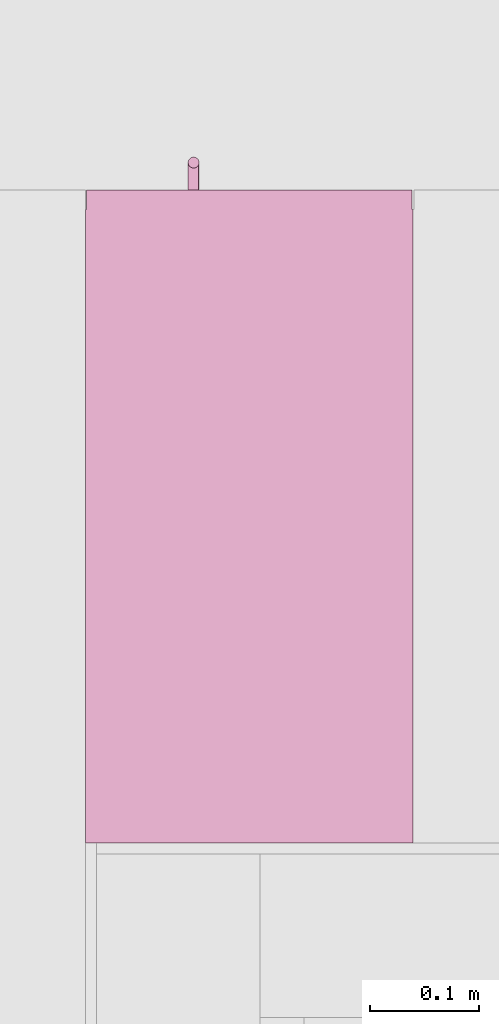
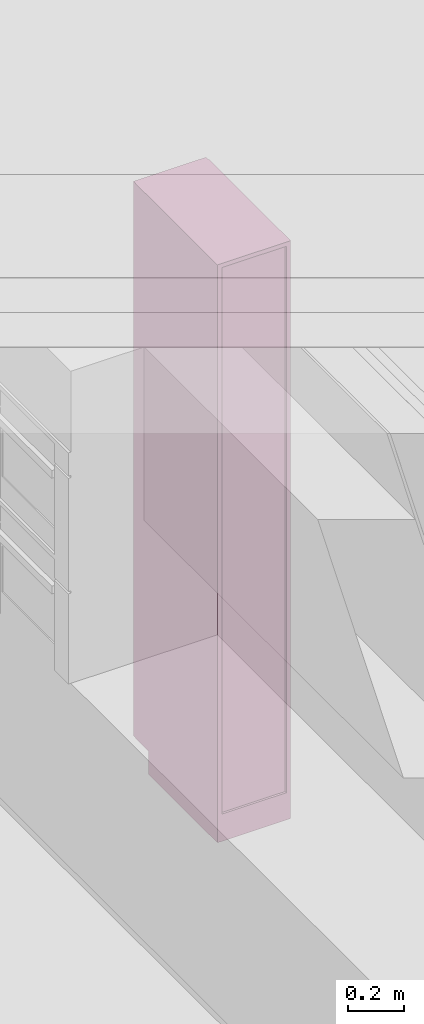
# One storey, part 32 of 36: 1 furniture element.
"""IFC4 building model written with IfcOpenShell, lengths in millimetres."""

from ifc_helpers import new_model, entity, si_unit, converted_unit, derived_unit, direction, frame, origin_with_axes, place, context, subcontext, project, spatial, polygons, source, transform, mapped, type_object, element, save


model = new_model("IFC4")

# Units and contexts
model_context = context("Model", 3, precision=0.01, world=origin_with_axes(), true_north=direction((0.0, 1.0)))
body_context = subcontext(model_context, "Body", "Model", "MODEL_VIEW")
ifc_project = project(units=[si_unit("LENGTHUNIT", "METRE", prefix="MILLI"), si_unit("AREAUNIT", "SQUARE_METRE"), si_unit("VOLUMEUNIT", "CUBIC_METRE"), converted_unit("PLANEANGLEUNIT", "DEGREE", entity("IfcPlaneAngleMeasure", 0.0174532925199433), si_unit("PLANEANGLEUNIT", "RADIAN"), dimensions=[0, 0, 0, 0, 0, 0, 0]), converted_unit("TIMEUNIT", "Year", entity("IfcTimeMeasure", 31557600.0), si_unit("TIMEUNIT", "SECOND"), dimensions=[0, 0, 1, 0, 0, 0, 0]), si_unit("MASSUNIT", "GRAM", prefix="KILO"), si_unit("THERMODYNAMICTEMPERATUREUNIT", "DEGREE_CELSIUS"), si_unit("LUMINOUSINTENSITYUNIT", "LUMEN"), si_unit("ENERGYUNIT", "JOULE", prefix="MEGA"), derived_unit("THERMALCONDUCTANCEUNIT", [(si_unit("POWERUNIT", "WATT"), 1), (si_unit("LENGTHUNIT", "METRE"), -1), (si_unit("THERMODYNAMICTEMPERATUREUNIT", "KELVIN"), -1)]), derived_unit("SPECIFICHEATCAPACITYUNIT", [(si_unit("ENERGYUNIT", "JOULE"), 1), (si_unit("MASSUNIT", "GRAM", prefix="KILO"), -1), (si_unit("THERMODYNAMICTEMPERATUREUNIT", "KELVIN"), -1)]), derived_unit("MASSDENSITYUNIT", [(si_unit("MASSUNIT", "GRAM", prefix="KILO"), 1), (si_unit("VOLUMEUNIT", "CUBIC_METRE"), -1)])], contexts=[model_context])

# Site, building, storey
site_placement = place(None, origin_with_axes())
site = spatial("IfcSite", under=ifc_project, at=site_placement, Name="Gelände", CompositionType="ELEMENT")
building_placement = place(site_placement, origin_with_axes())
building = spatial("IfcBuilding", under=site, at=building_placement, Name="Gebäude", CompositionType="ELEMENT")
storey_placement = place(building_placement, frame((0.0, 0.0, 8700.0), z_axis=(0.0, 0.0, 1.0), x_axis=(1.0, 0.0, 0.0)))
storey = spatial("IfcBuildingStorey", under=building, at=storey_placement, Name="Attika", CompositionType="ELEMENT", Elevation=8700.0)

# Furniture
furniture_type = type_object("IfcFurnitureType", Name="Stehender Schrank Block 27", AssemblyPlace="NOTDEFINED", PredefinedType="NOTDEFINED")
shared_shape = source(origin_with_axes(), body_context, "Body", "Tessellation", [
    polygons([(201.8682408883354, -597.9999999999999, 1352.799038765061), (202.710100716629, -597.9999999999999, 1352.573463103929), (203.5000000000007, -597.9999999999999, 1352.205127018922), (204.2139380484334, -597.9999999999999, 1351.705222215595), (204.8302222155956, -597.9999999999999, 1351.088938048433), (205.3301270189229, -597.9999999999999, 1350.375), (205.6984631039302, -597.9999999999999, 1349.585100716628), (205.9240387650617, -597.9999999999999, 1348.743240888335), (206.0000000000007, -597.9999999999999, 1347.875), (205.9240387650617, -597.9999999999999, 1347.006759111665), (205.6984631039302, -597.9999999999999, 1346.164899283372), (205.3301270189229, -597.9999999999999, 1345.375), (204.8302222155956, -597.9999999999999, 1344.661061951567), (204.2139380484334, -597.9999999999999, 1344.044777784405), (203.5000000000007, -597.9999999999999, 1343.544872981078), (202.710100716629, -597.9999999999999, 1343.176536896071), (201.8682408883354, -597.9999999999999, 1342.950961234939), (201.0000000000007, -597.9999999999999, 1342.875), (200.1317591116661, -597.9999999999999, 1342.950961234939), (199.2898992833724, -597.9999999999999, 1343.176536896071), (198.5000000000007, -597.9999999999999, 1343.544872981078), (197.786061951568, -597.9999999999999, 1344.044777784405), (197.1697777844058, -597.9999999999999, 1344.661061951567), (196.6698729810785, -597.9999999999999, 1345.375), (196.3015368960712, -597.9999999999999, 1346.164899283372), (196.0759612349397, -597.9999999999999, 1347.006759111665), (196.0000000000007, -597.9999999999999, 1347.875), (196.0759612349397, -597.9999999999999, 1348.743240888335), (196.3015368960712, -597.9999999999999, 1349.585100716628), (196.6698729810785, -597.9999999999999, 1350.375), (197.1697777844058, -597.9999999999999, 1351.088938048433), (197.786061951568, -597.9999999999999, 1351.705222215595), (198.5000000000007, -597.9999999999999, 1352.205127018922), (199.2898992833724, -597.9999999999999, 1352.573463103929), (200.1317591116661, -597.9999999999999, 1352.799038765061), (201.0000000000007, -597.9999999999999, 1352.875), (201.8682408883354, -622.9999999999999, 1352.799038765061), (202.710100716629, -622.9999999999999, 1352.573463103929), (203.5000000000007, -622.9999999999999, 1352.205127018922), (204.2139380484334, -622.9999999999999, 1351.705222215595), (204.8302222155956, -622.9999999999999, 1351.088938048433), (205.3301270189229, -622.9999999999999, 1350.375), (205.6984631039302, -622.9999999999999, 1349.585100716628), (205.9240387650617, -622.9999999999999, 1348.743240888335), (206.0000000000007, -622.9999999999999, 1347.875), (205.9240387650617, -622.9999999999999, 1347.006759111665), (205.6984631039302, -622.9999999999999, 1346.164899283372), (205.3301270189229, -622.9999999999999, 1345.375), (204.8302222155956, -622.9999999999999, 1344.661061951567), (204.2139380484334, -622.9999999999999, 1344.044777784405), (203.5000000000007, -622.9999999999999, 1343.544872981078), (202.710100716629, -622.9999999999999, 1343.176536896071), (201.8682408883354, -622.9999999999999, 1342.950961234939), (201.0000000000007, -622.9999999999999, 1342.875), (200.1317591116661, -622.9999999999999, 1342.950961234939), (199.2898992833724, -622.9999999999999, 1343.176536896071), (198.5000000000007, -622.9999999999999, 1343.544872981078), (197.786061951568, -622.9999999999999, 1344.044777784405), (197.1697777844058, -622.9999999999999, 1344.661061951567), (196.6698729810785, -622.9999999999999, 1345.375), (196.3015368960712, -622.9999999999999, 1346.164899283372), (196.0759612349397, -622.9999999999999, 1347.006759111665), (196.0000000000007, -622.9999999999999, 1347.875), (196.0759612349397, -622.9999999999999, 1348.743240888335), (196.3015368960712, -622.9999999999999, 1349.585100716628), (196.6698729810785, -622.9999999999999, 1350.375), (197.1697777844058, -622.9999999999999, 1351.088938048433), (197.786061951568, -622.9999999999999, 1351.705222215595), (198.5000000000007, -622.9999999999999, 1352.205127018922), (199.2898992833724, -622.9999999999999, 1352.573463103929), (200.1317591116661, -622.9999999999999, 1352.799038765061), (201.0000000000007, -622.9999999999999, 1352.875)], [[[1, 2, 3, 4, 5, 6, 7, 8, 9, 10, 11, 12, 13, 14, 15, 16, 17, 18, 19, 20, 21, 22, 23, 24, 25, 26, 27, 28, 29, 30, 31, 32, 33, 34, 35, 36]], [[2, 1, 37, 38]], [[3, 2, 38, 39]], [[4, 3, 39, 40]], [[5, 4, 40, 41]], [[6, 5, 41, 42]], [[7, 6, 42, 43]], [[8, 7, 43, 44]], [[9, 8, 44, 45]], [[10, 9, 45, 46]], [[11, 10, 46, 47]], [[12, 11, 47, 48]], [[13, 12, 48, 49]], [[14, 13, 49, 50]], [[15, 14, 50, 51]], [[16, 15, 51, 52]], [[17, 16, 52, 53]], [[18, 17, 53, 54]], [[19, 18, 54, 55]], [[20, 19, 55, 56]], [[21, 20, 56, 57]], [[22, 21, 57, 58]], [[23, 22, 58, 59]], [[24, 23, 59, 60]], [[25, 24, 60, 61]], [[26, 25, 61, 62]], [[27, 26, 62, 63]], [[28, 27, 63, 64]], [[29, 28, 64, 65]], [[30, 29, 65, 66]], [[31, 30, 66, 67]], [[32, 31, 67, 68]], [[33, 32, 68, 69]], [[34, 33, 69, 70]], [[35, 34, 70, 71]], [[36, 35, 71, 72]], [[1, 36, 72, 37]], [[37, 72, 71, 70, 69, 68, 67, 66, 65, 64, 63, 62, 61, 60, 59, 58, 57, 56, 55, 54, 53, 52, 51, 50, 49, 48, 47, 46, 45, 44, 43, 42, 41, 40, 39, 38]]], closed=True),
    polygons([(201.8682408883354, -597.9999999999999, 1249.200961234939), (201.0000000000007, -597.9999999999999, 1249.125), (200.1317591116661, -597.9999999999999, 1249.200961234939), (199.2898992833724, -597.9999999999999, 1249.426536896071), (198.5000000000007, -597.9999999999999, 1249.794872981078), (197.786061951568, -597.9999999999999, 1250.294777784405), (197.1697777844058, -597.9999999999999, 1250.911061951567), (196.6698729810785, -597.9999999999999, 1251.625), (196.3015368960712, -597.9999999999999, 1252.414899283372), (196.0759612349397, -597.9999999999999, 1253.256759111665), (196.0000000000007, -597.9999999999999, 1254.125), (196.0759612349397, -597.9999999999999, 1254.993240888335), (196.3015368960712, -597.9999999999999, 1255.835100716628), (196.6698729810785, -597.9999999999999, 1256.625), (197.1697777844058, -597.9999999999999, 1257.338938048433), (197.786061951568, -597.9999999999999, 1257.955222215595), (198.5000000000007, -597.9999999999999, 1258.455127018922), (199.2898992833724, -597.9999999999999, 1258.823463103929), (200.1317591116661, -597.9999999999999, 1259.049038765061), (201.0000000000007, -597.9999999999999, 1259.125), (201.8682408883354, -597.9999999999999, 1259.049038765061), (202.710100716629, -597.9999999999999, 1258.823463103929), (203.5000000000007, -597.9999999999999, 1258.455127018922), (204.2139380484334, -597.9999999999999, 1257.955222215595), (204.8302222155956, -597.9999999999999, 1257.338938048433), (205.3301270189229, -597.9999999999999, 1256.625), (205.6984631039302, -597.9999999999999, 1255.835100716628), (205.9240387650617, -597.9999999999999, 1254.993240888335), (206.0000000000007, -597.9999999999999, 1254.125), (205.9240387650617, -597.9999999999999, 1253.256759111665), (205.6984631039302, -597.9999999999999, 1252.414899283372), (205.3301270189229, -597.9999999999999, 1251.625), (204.8302222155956, -597.9999999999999, 1250.911061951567), (204.2139380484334, -597.9999999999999, 1250.294777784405), (203.5000000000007, -597.9999999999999, 1249.794872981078), (202.710100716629, -597.9999999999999, 1249.426536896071), (201.8682408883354, -622.9999999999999, 1249.200961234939), (201.0000000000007, -622.9999999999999, 1249.125), (200.1317591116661, -622.9999999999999, 1249.200961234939), (199.2898992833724, -622.9999999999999, 1249.426536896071), (198.5000000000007, -622.9999999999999, 1249.794872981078), (197.786061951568, -622.9999999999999, 1250.294777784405), (197.1697777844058, -622.9999999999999, 1250.911061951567), (196.6698729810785, -622.9999999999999, 1251.625), (196.3015368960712, -622.9999999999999, 1252.414899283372), (196.0759612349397, -622.9999999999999, 1253.256759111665), (196.0000000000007, -622.9999999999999, 1254.125), (196.0759612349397, -622.9999999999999, 1254.993240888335), (196.3015368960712, -622.9999999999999, 1255.835100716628), (196.6698729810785, -622.9999999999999, 1256.625), (197.1697777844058, -622.9999999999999, 1257.338938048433), (197.786061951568, -622.9999999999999, 1257.955222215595), (198.5000000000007, -622.9999999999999, 1258.455127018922), (199.2898992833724, -622.9999999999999, 1258.823463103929), (200.1317591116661, -622.9999999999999, 1259.049038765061), (201.0000000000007, -622.9999999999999, 1259.125), (201.8682408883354, -622.9999999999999, 1259.049038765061), (202.710100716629, -622.9999999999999, 1258.823463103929), (203.5000000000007, -622.9999999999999, 1258.455127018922), (204.2139380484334, -622.9999999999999, 1257.955222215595), (204.8302222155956, -622.9999999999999, 1257.338938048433), (205.3301270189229, -622.9999999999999, 1256.625), (205.6984631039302, -622.9999999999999, 1255.835100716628), (205.9240387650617, -622.9999999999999, 1254.993240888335), (206.0000000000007, -622.9999999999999, 1254.125), (205.9240387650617, -622.9999999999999, 1253.256759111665), (205.6984631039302, -622.9999999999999, 1252.414899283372), (205.3301270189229, -622.9999999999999, 1251.625), (204.8302222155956, -622.9999999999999, 1250.911061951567), (204.2139380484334, -622.9999999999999, 1250.294777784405), (203.5000000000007, -622.9999999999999, 1249.794872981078), (202.710100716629, -622.9999999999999, 1249.426536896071)], [[[1, 2, 3, 4, 5, 6, 7, 8, 9, 10, 11, 12, 13, 14, 15, 16, 17, 18, 19, 20, 21, 22, 23, 24, 25, 26, 27, 28, 29, 30, 31, 32, 33, 34, 35, 36]], [[1, 37, 38, 2]], [[2, 38, 39, 3]], [[3, 39, 40, 4]], [[4, 40, 41, 5]], [[5, 41, 42, 6]], [[6, 42, 43, 7]], [[7, 43, 44, 8]], [[8, 44, 45, 9]], [[9, 45, 46, 10]], [[10, 46, 47, 11]], [[11, 47, 48, 12]], [[12, 48, 49, 13]], [[13, 49, 50, 14]], [[14, 50, 51, 15]], [[15, 51, 52, 16]], [[16, 52, 53, 17]], [[17, 53, 54, 18]], [[18, 54, 55, 19]], [[19, 55, 56, 20]], [[20, 56, 57, 21]], [[21, 57, 58, 22]], [[22, 58, 59, 23]], [[23, 59, 60, 24]], [[24, 60, 61, 25]], [[25, 61, 62, 26]], [[26, 62, 63, 27]], [[27, 63, 64, 28]], [[28, 64, 65, 29]], [[29, 65, 66, 30]], [[30, 66, 67, 31]], [[31, 67, 68, 32]], [[32, 68, 69, 33]], [[33, 69, 70, 34]], [[34, 70, 71, 35]], [[35, 71, 72, 36]], [[36, 72, 37, 1]], [[37, 72, 71, 70, 69, 68, 67, 66, 65, 64, 63, 62, 61, 60, 59, 58, 57, 56, 55, 54, 53, 52, 51, 50, 49, 48, 47, 46, 45, 44, 43, 42, 41, 40, 39, 38]]], closed=True),
    polygons([(201.8682408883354, -618.0759612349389, 1226.0), (202.710100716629, -618.3015368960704, 1226.0), (203.5000000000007, -618.6698729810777, 1226.0), (204.2139380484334, -619.1697777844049, 1226.0), (204.8302222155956, -619.7860619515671, 1226.0), (205.3301270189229, -620.4999999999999, 1226.0), (205.6984631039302, -621.2898992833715, 1226.0), (205.9240387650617, -622.1317591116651, 1226.0), (206.0000000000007, -622.9999999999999, 1226.0), (205.9240387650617, -623.8682408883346, 1226.0), (205.6984631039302, -624.7101007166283, 1226.0), (205.3301270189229, -625.4999999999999, 1226.0), (204.8302222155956, -626.2139380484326, 1226.0), (204.2139380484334, -626.8302222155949, 1226.0), (203.5000000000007, -627.3301270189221, 1226.0), (202.710100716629, -627.6984631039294, 1226.0), (201.8682408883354, -627.924038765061, 1226.0), (201.0000000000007, -627.9999999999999, 1226.0), (200.1317591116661, -627.924038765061, 1226.0), (199.2898992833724, -627.6984631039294, 1226.0), (198.5000000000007, -627.3301270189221, 1226.0), (197.786061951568, -626.8302222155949, 1226.0), (197.1697777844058, -626.2139380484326, 1226.0), (196.6698729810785, -625.4999999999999, 1226.0), (196.3015368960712, -624.7101007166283, 1226.0), (196.0759612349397, -623.8682408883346, 1226.0), (196.0000000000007, -622.9999999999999, 1226.0), (196.0759612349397, -622.1317591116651, 1226.0), (196.3015368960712, -621.2898992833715, 1226.0), (196.6698729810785, -620.4999999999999, 1226.0), (197.1697777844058, -619.7860619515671, 1226.0), (197.786061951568, -619.1697777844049, 1226.0), (198.5000000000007, -618.6698729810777, 1226.0), (199.2898992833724, -618.3015368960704, 1226.0), (200.1317591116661, -618.0759612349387, 1226.0), (201.0000000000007, -617.9999999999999, 1226.0), (201.8682408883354, -618.0759612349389, 1376.0), (202.7101007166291, -618.3015368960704, 1376.0), (203.5000000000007, -618.6698729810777, 1376.0), (204.2139380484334, -619.1697777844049, 1376.0), (204.8302222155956, -619.7860619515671, 1376.0), (205.3301270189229, -620.4999999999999, 1376.0), (205.6984631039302, -621.2898992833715, 1376.0), (205.9240387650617, -622.1317591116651, 1376.0), (206.0000000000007, -622.9999999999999, 1376.0), (205.9240387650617, -623.8682408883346, 1376.0), (205.6984631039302, -624.7101007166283, 1376.0), (205.3301270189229, -625.4999999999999, 1376.0), (204.8302222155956, -626.2139380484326, 1376.0), (204.2139380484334, -626.8302222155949, 1376.0), (203.5000000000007, -627.3301270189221, 1376.0), (202.7101007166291, -627.6984631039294, 1376.0), (201.8682408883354, -627.924038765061, 1376.0), (201.0000000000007, -627.9999999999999, 1376.0), (200.1317591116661, -627.924038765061, 1376.0), (199.2898992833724, -627.6984631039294, 1376.0), (198.5000000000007, -627.3301270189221, 1376.0), (197.786061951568, -626.8302222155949, 1376.0), (197.1697777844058, -626.2139380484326, 1376.0), (196.6698729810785, -625.4999999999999, 1376.0), (196.3015368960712, -624.7101007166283, 1376.0), (196.0759612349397, -623.8682408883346, 1376.0), (196.0000000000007, -622.9999999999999, 1376.0), (196.0759612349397, -622.1317591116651, 1376.0), (196.3015368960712, -621.2898992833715, 1376.0), (196.6698729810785, -620.4999999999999, 1376.0), (197.1697777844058, -619.7860619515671, 1376.0), (197.786061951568, -619.1697777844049, 1376.0), (198.5000000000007, -618.6698729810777, 1376.0), (199.2898992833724, -618.3015368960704, 1376.0), (200.1317591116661, -618.0759612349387, 1376.0), (201.0000000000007, -617.9999999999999, 1376.0)], [[[1, 2, 3, 4, 5, 6, 7, 8, 9, 10, 11, 12, 13, 14, 15, 16, 17, 18, 19, 20, 21, 22, 23, 24, 25, 26, 27, 28, 29, 30, 31, 32, 33, 34, 35, 36]], [[2, 1, 37, 38]], [[3, 2, 38, 39]], [[4, 3, 39, 40]], [[5, 4, 40, 41]], [[6, 5, 41, 42]], [[7, 6, 42, 43]], [[8, 7, 43, 44]], [[9, 8, 44, 45]], [[10, 9, 45, 46]], [[11, 10, 46, 47]], [[12, 11, 47, 48]], [[13, 12, 48, 49]], [[14, 13, 49, 50]], [[15, 14, 50, 51]], [[16, 15, 51, 52]], [[17, 16, 52, 53]], [[18, 17, 53, 54]], [[19, 18, 54, 55]], [[20, 19, 55, 56]], [[21, 20, 56, 57]], [[22, 21, 57, 58]], [[23, 22, 58, 59]], [[24, 23, 59, 60]], [[25, 24, 60, 61]], [[26, 25, 61, 62]], [[27, 26, 62, 63]], [[28, 27, 63, 64]], [[29, 28, 64, 65]], [[30, 29, 65, 66]], [[31, 30, 66, 67]], [[32, 31, 67, 68]], [[33, 32, 68, 69]], [[34, 33, 69, 70]], [[35, 34, 70, 71]], [[36, 35, 71, 72]], [[1, 36, 72, 37]], [[37, 72, 71, 70, 69, 68, 67, 66, 65, 64, 63, 62, 61, 60, 59, 58, 57, 56, 55, 54, 53, 52, 51, 50, 49, 48, 47, 46, 45, 44, 43, 42, 41, 40, 39, 38]]], closed=True),
    polygons([(1.0, -580.0, 101.0), (299.0000000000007, -580.0, 101.0), (299.0000000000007, -598.0, 101.0), (1.0, -598.0, 101.0), (1.0, -579.9999999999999, 2499.0), (299.0000000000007, -579.9999999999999, 2499.0), (299.0000000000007, -597.9999999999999, 2499.0), (1.0, -597.9999999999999, 2499.0)], [[[1, 2, 3, 4]], [[1, 5, 6, 2]], [[2, 6, 7, 3]], [[4, 3, 7, 8]], [[5, 1, 4, 8]], [[6, 5, 8, 7]]], closed=True),
    polygons([(18.0, -580.0, 100.0), (282.0000000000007, -580.0, 100.0), (282.0000000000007, -580.0, 118.0), (18.0, -580.0, 118.0), (18.0, 0.0, 100.0), (282.0000000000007, 0.0, 100.0), (282.0000000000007, 0.0, 118.0), (18.0, 0.0, 118.0)], [[[1, 2, 3, 4]], [[1, 5, 6, 2]], [[2, 6, 7, 3]], [[4, 3, 7, 8]], [[5, 1, 4, 8]], [[6, 5, 8, 7]]], closed=True),
    polygons([(18.0, -580.0, 2482.0), (282.0000000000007, -580.0, 2482.0), (282.0000000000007, -580.0, 2500.0), (18.0, -580.0, 2500.0), (18.0, 0.0, 2482.0), (282.0000000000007, 0.0, 2482.0), (282.0000000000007, 0.0, 2500.0), (18.0, 0.0, 2500.0)], [[[1, 2, 3, 4]], [[1, 5, 6, 2]], [[2, 6, 7, 3]], [[4, 3, 7, 8]], [[5, 1, 4, 8]], [[6, 5, 8, 7]]], closed=True),
    polygons([(0.0, 0.0, 100.0), (0.0, -580.0, 100.0), (0.0, -580.0, 2500.0), (0.0, 0.0, 2500.0), (18.0, 0.0, 100.0), (18.0, -580.0, 100.0), (18.0, -580.0, 2500.0), (18.0, 0.0, 2500.0)], [[[1, 2, 3, 4]], [[1, 5, 6, 2]], [[2, 6, 7, 3]], [[4, 3, 7, 8]], [[5, 1, 4, 8]], [[6, 5, 8, 7]]], closed=True),
    polygons([(300.0000000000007, -580.0, 100.0), (300.0000000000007, 0.0, 100.0), (300.0000000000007, 0.0, 2500.0), (300.0000000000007, -580.0, 2500.0), (282.0000000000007, -580.0, 100.0), (282.0000000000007, 0.0, 100.0), (282.0000000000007, 0.0, 2500.0), (282.0000000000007, -580.0, 2500.0)], [[[1, 2, 3, 4]], [[1, 5, 6, 2]], [[2, 6, 7, 3]], [[4, 3, 7, 8]], [[5, 1, 4, 8]], [[6, 5, 8, 7]]], closed=True),
    polygons([(282.0000000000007, -9.0, 118.0), (18.00000000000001, -9.0, 118.0), (18.00000000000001, -9.0, 2482.0), (282.0000000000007, -9.0, 2482.0), (282.0000000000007, -18.0, 118.0), (18.00000000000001, -18.0, 118.0), (18.00000000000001, -18.0, 2482.0), (282.0000000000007, -18.0, 2482.0)], [[[1, 2, 3, 4]], [[1, 5, 6, 2]], [[2, 6, 7, 3]], [[4, 3, 7, 8]], [[5, 1, 4, 8]], [[6, 5, 8, 7]]], closed=True),
    polygons([(0.0, -490.0, 0.0), (300.0000000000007, -490.0, 0.0), (300.0000000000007, -490.0, 100.0), (0.0, -490.0, 100.0), (0.0, 0.0, 0.0), (300.0000000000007, 0.0, 0.0), (300.0000000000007, 0.0, 100.0), (0.0, 0.0, 100.0)], [[[1, 2, 3, 4]], [[1, 5, 6, 2]], [[2, 6, 7, 3]], [[4, 3, 7, 8]], [[5, 1, 4, 8]], [[6, 5, 8, 7]]], closed=True),
])
furniture_placement = place(storey_placement, frame((8328.997444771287, 34847.59728131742, 150.0000000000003), z_axis=(0.0, 0.0, 1.0), x_axis=(-1.0, 0.0, 0.0)))
element("IfcFurniture", 1, at=furniture_placement, inside=storey, type_object=furniture_type, Name="Möbel-021", PredefinedType="NOTDEFINED", context=body_context, shape_type="MappedRepresentation", body=[
    mapped(shared_shape, transform((0.0, 0.0, 0.0))),
])

save(model, "model.ifc")
